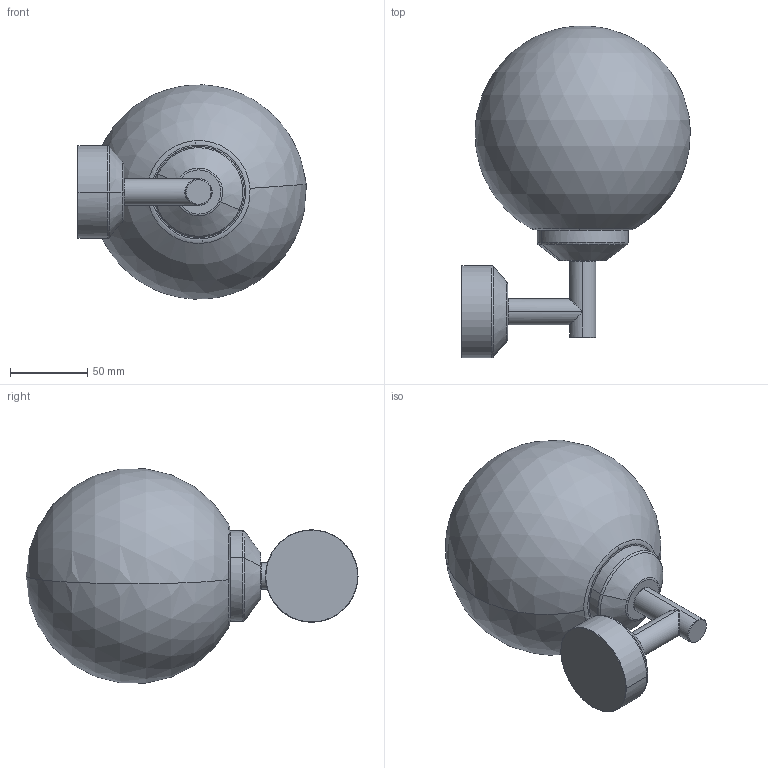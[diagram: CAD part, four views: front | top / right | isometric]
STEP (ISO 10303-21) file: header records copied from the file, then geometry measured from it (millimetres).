
FILE_DESCRIPTION(('THIS FILE CONTAINS SOME STEP INSTANCES'),'1');
FILE_NAME('sta_079.stp','2015-12-09T15:47:48',('UNDEFINED'),('UNDEFINED'),'T-FLEX CAD STEP converter','T-FLEX CAD','');
FILE_SCHEMA(('CONFIG_CONTROL_DESIGN'));
Length unit declared in the file: metre
Products named in the file (2): SP_ 018_79; sp_020_79p
Bounding box: 148.31 x 215.36 x 138.95 mm (x, y, z)
Volume: 212512.3 mm3; surface area: 144431.7 mm2
Topology: 2 solids, 2 shells, 81 faces, 171 edges, 95 vertices
Faces by surface type: torus 22, cylinder 21, cone 20, plane 12, sphere 4, bspline 2
Entity records: 2576 total; most frequent: CARTESIAN_POINT 1143, ORIENTED_EDGE 326, DIRECTION 254, EDGE_CURVE 163, AXIS2_PLACEMENT_3D 107, VERTEX_POINT 95, EDGE_LOOP 90, ADVANCED_FACE 81
